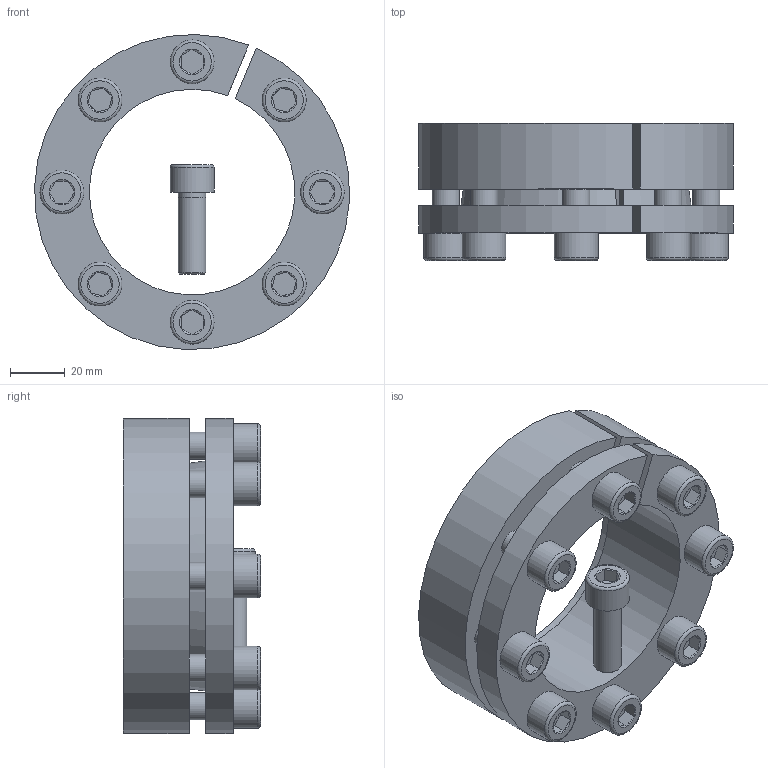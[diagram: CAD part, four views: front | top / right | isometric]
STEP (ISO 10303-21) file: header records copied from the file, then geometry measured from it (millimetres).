
FILE_DESCRIPTION( ( 'Unknown' ), '1' );
FILE_NAME( 'C:/Dokumente und Einstellungen/Sven/Desktop/homepage/cad - homepage/KBS13/KBS 13 - 75 x 115.stp', 'Unknown', ( 'Unknown' ), ( 'Unknown' ), 'XStep 1.0', 'Unknown', ' ' );
FILE_SCHEMA( ( 'automotive_design' ) );
Length unit declared in the file: millimetre
Products named in the file (3): Assem1; KBS 13 - 75 x 115; ISO EN DIN 4762 M10x30
Bounding box: 114.87 x 50 x 114.93 mm (x, y, z)
Volume: 406846.4 mm3; surface area: 122238.7 mm2
Topology: 11 solids, 11 shells, 281 faces, 573 edges, 350 vertices
Faces by surface type: plane 122, cylinder 74, cone 67, torus 18
Full cylindrical faces by diameter (mm): 9 x9, 10 x50, 16 x9
Entity records: 1774 total; most frequent: CARTESIAN_POINT 293, DIRECTION 272, ORIENTED_EDGE 194, AXIS2_PLACEMENT_3D 122, EDGE_LOOP 112, EDGE_CURVE 97, FACE_OUTER_BOUND 75, VERTEX_POINT 75
